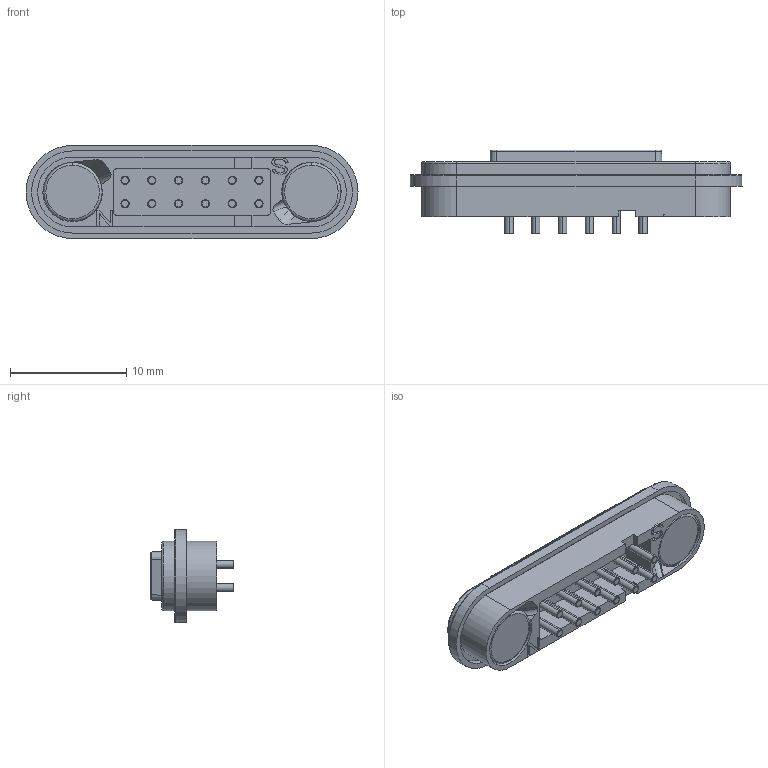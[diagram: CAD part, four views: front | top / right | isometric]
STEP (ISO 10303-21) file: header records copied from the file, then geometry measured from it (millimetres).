
FILE_DESCRIPTION((''),'2;1');
FILE_NAME('A1215-12P-2_3PH-__STP_ASM','2026-08-20T',('PMT2 SFT'),(''),'PRO/ENGINEER BY PARAMETRIC TECHNOLOGY CORPORATION, 2011490','PRO/ENGINEER BY PARAMETRIC TECHNOLOGY CORPORATION, 2011490','');
FILE_SCHEMA(('CONFIG_CONTROL_DESIGN'));
Length unit declared in the file: millimetre
Products named in the file (19): _X2_52079664_X0_-_X2_62C94F-553; _X2_52079664_X0_-_X2_62C94F-554; ASM0002_ASM; MANIFOLD_SOLID_BREP_555; MANIFOLD_SOLID_BREP_556; MANIFOLD_SOLID_BREP_557; MANIFOLD_SOLID_BREP_558; MANIFOLD_SOLID_BREP_559; MANIFOLD_SOLID_BREP_560; MANIFOLD_SOLID_BREP_561; MANIFOLD_SOLID_BREP_562; MANIFOLD_SOLID_BREP_563; MANIFOLD_SOLID_BREP_564; MANIFOLD_SOLID_BREP_565; MANIFOLD_SOLID_BREP_566; ASM0003_ASM; PRT0003; PG0679-12P-2_3PH-_X2_6BCD_X0__S_ASM; A1215-12P-2_3PH-__STP_ASM
Assembly tree (18 placements, depth 4):
  A1215-12P-2_3PH-__STP_ASM
    PG0679-12P-2_3PH-_X2_6BCD_X0__S_ASM
      ASM0002_ASM
        _X2_52079664_X0_-_X2_62C94F-553
        _X2_52079664_X0_-_X2_62C94F-554
      ASM0003_ASM
        MANIFOLD_SOLID_BREP_555
        MANIFOLD_SOLID_BREP_556
        MANIFOLD_SOLID_BREP_557
        MANIFOLD_SOLID_BREP_558
        MANIFOLD_SOLID_BREP_559
        MANIFOLD_SOLID_BREP_560
        MANIFOLD_SOLID_BREP_561
        MANIFOLD_SOLID_BREP_562
        MANIFOLD_SOLID_BREP_563
        MANIFOLD_SOLID_BREP_564
        MANIFOLD_SOLID_BREP_565
        MANIFOLD_SOLID_BREP_566
      PRT0003
Bounding box: 28.5 x 7.2 x 8 mm (x, y, z)
Volume: 665.4 mm3; surface area: 1572.7 mm2
Topology: 15 solids, 15 shells, 332 faces, 745 edges, 475 vertices
Faces by surface type: cylinder 134, plane 104, cone 56, extrusion 22, torus 16
Entity records: 10126 total; most frequent: CARTESIAN_POINT 2054, DIRECTION 1762, ORIENTED_EDGE 1490, EDGE_CURVE 745, AXIS2_PLACEMENT_3D 707, VERTEX_POINT 475, EDGE_LOOP 388, VECTOR 348
